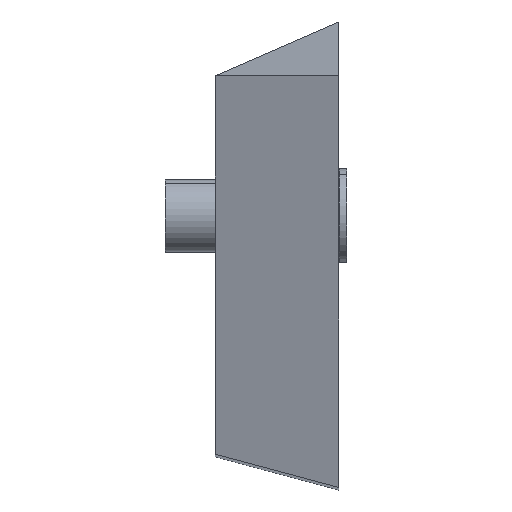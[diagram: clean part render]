
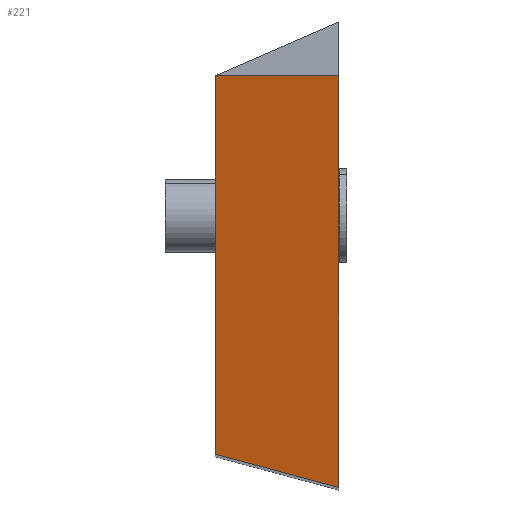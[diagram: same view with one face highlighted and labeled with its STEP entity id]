
A CAD part, top view. The second image highlights one B-rep face of the part: STEP entity #221.
In plain terms, the highlighted planar face has unit normal (0, -0.259, 0.966).
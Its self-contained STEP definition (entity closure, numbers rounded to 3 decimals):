
#185=AXIS2_PLACEMENT_3D('Plane Axis2P3D',#182,#183,#184) ;
#110=CARTESIAN_POINT('Vertex',(-8.5,2.278,0.61)) ;
#113=CARTESIAN_POINT('Line Origine',(-8.5,15.271,4.092)) ;
#117=CARTESIAN_POINT('Vertex',(-8.5,28.265,7.574)) ;
#167=CARTESIAN_POINT('Vertex',(0.,0.,0.)) ;
#170=CARTESIAN_POINT('Line Origine',(-4.25,1.139,0.305)) ;
#182=CARTESIAN_POINT('Axis2P3D Location',(-2.,28.299,7.583)) ;
#187=CARTESIAN_POINT('Line Origine',(-1.626,28.299,7.583)) ;
#191=CARTESIAN_POINT('Vertex',(-3.251,28.299,7.583)) ;
#193=CARTESIAN_POINT('Vertex',(0.,28.299,7.583)) ;
#196=CARTESIAN_POINT('Line Origine',(-5.837,28.299,7.583)) ;
#200=CARTESIAN_POINT('Vertex',(-8.422,28.299,7.583)) ;
#203=CARTESIAN_POINT('Line Origine',(-8.461,28.282,7.578)) ;
#208=CARTESIAN_POINT('Line Origine',(0.,14.149,3.791)) ;
#114=DIRECTION('Vector Direction',(0.,-0.966,-0.259)) ;
#171=DIRECTION('Vector Direction',(-0.964,0.258,0.069)) ;
#183=DIRECTION('Axis2P3D Direction',(0.,0.259,-0.966)) ;
#184=DIRECTION('Axis2P3D XDirection',(0.,-0.966,-0.259)) ;
#188=DIRECTION('Vector Direction',(1.,0.,0.)) ;
#197=DIRECTION('Vector Direction',(1.,0.,0.)) ;
#204=DIRECTION('Vector Direction',(-0.911,-0.397,-0.106)) ;
#209=DIRECTION('Vector Direction',(0.,0.966,0.259)) ;
#115=VECTOR('Line Direction',#114,1.) ;
#172=VECTOR('Line Direction',#171,1.) ;
#189=VECTOR('Line Direction',#188,1.) ;
#198=VECTOR('Line Direction',#197,1.) ;
#205=VECTOR('Line Direction',#204,1.) ;
#210=VECTOR('Line Direction',#209,1.) ;
#214=ORIENTED_EDGE('',*,*,#195,.F.) ;
#215=ORIENTED_EDGE('',*,*,#202,.F.) ;
#216=ORIENTED_EDGE('',*,*,#207,.T.) ;
#217=ORIENTED_EDGE('',*,*,#119,.F.) ;
#218=ORIENTED_EDGE('',*,*,#174,.F.) ;
#219=ORIENTED_EDGE('',*,*,#212,.T.) ;
#221=ADVANCED_FACE('NO_CUT',(#220),#186,.F.) ;
#119=EDGE_CURVE('',#111,#118,#116,.F.) ;
#174=EDGE_CURVE('',#168,#111,#173,.T.) ;
#195=EDGE_CURVE('',#192,#194,#190,.T.) ;
#202=EDGE_CURVE('',#201,#192,#199,.T.) ;
#207=EDGE_CURVE('',#201,#118,#206,.T.) ;
#212=EDGE_CURVE('',#168,#194,#211,.T.) ;
#213=EDGE_LOOP('',(#214,#215,#216,#217,#218,#219)) ;
#220=FACE_OUTER_BOUND('',#213,.T.) ;
#116=LINE('Line',#113,#115) ;
#173=LINE('Line',#170,#172) ;
#190=LINE('Line',#187,#189) ;
#199=LINE('Line',#196,#198) ;
#206=LINE('Line',#203,#205) ;
#211=LINE('Line',#208,#210) ;
#186=PLANE('Plane',#185) ;
#111=VERTEX_POINT('',#110) ;
#118=VERTEX_POINT('',#117) ;
#168=VERTEX_POINT('',#167) ;
#192=VERTEX_POINT('',#191) ;
#194=VERTEX_POINT('',#193) ;
#201=VERTEX_POINT('',#200) ;
